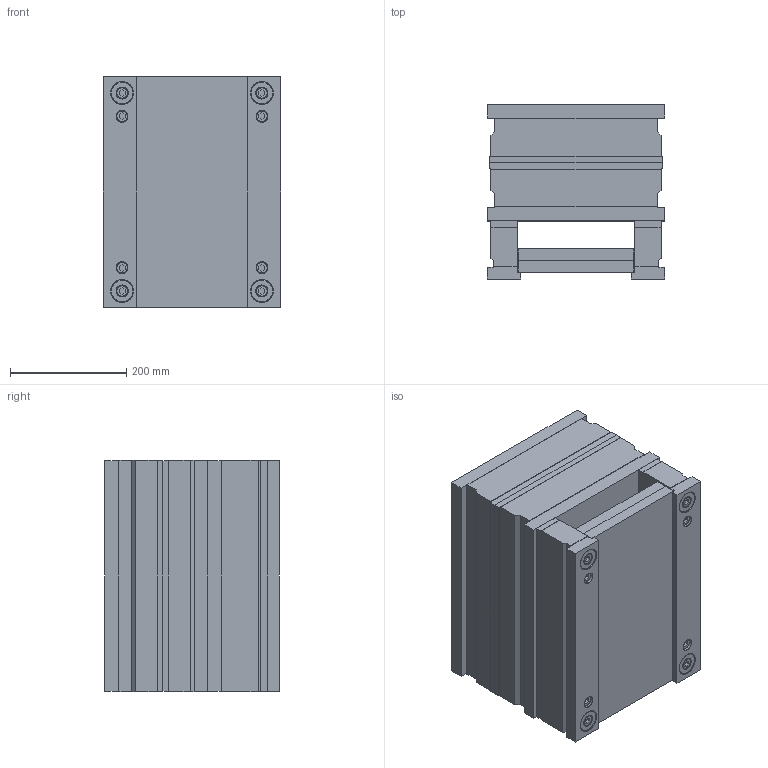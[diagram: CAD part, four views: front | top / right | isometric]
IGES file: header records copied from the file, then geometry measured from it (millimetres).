
Start section: SolidWorks IGES FILE using analytic representation for surfaces
Global section: file name: C:\Documents and Settings\K.P\My Documents\Mechanical\ALMO\CATL_EUR\RECT\2962.IGS; native system: SolidWorks 2001Plus by SolidWorks Corporation; preprocessor: Version 5.3; author: Pavel; date: 020710.073014; units: millimetre
Bounding box: 305 x 300 x 398 mm (x, y, z)
Surface area: 1717490 mm2 (no closed solid volume)
Topology: 0 solids, 0 shells, 862 faces, 16008 edges, 15992 vertices
Faces by surface type: revolution 532, bspline 330
